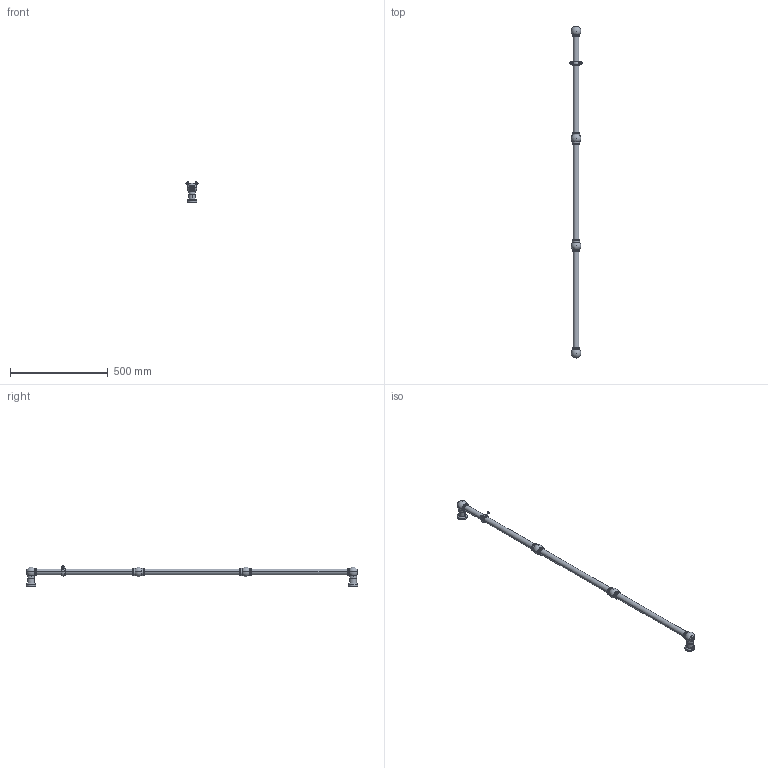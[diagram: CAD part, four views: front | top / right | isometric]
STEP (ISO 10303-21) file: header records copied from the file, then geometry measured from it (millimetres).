
FILE_DESCRIPTION (( 'STEP AP203' ), '1' );
FILE_NAME ('CAE031700.STEP', '2026-03-03T15:22:01', ( '' ), ( '' ), 'SwSTEP 2.0', 'SolidWorks 2025', '' );
FILE_SCHEMA (( 'CONFIG_CONTROL_DESIGN' ));
Length unit declared in the file: millimetre
Products named in the file (6): VITE; CAE031700; SFERA - Colonna; APPENDIABITI CAESAR; TUBO CAESAR COLONNA_550; SFERA-FIX - Colonna
Assembly tree (9 placements, depth 2):
  CAE031700
    SFERA-FIX - Colonna  x2
    TUBO CAESAR COLONNA_550  x3
    SFERA - Colonna  x2
    VITE
    APPENDIABITI CAESAR
Bounding box: 63.27 x 1701.01 x 104.64 mm (x, y, z)
Volume: 410875.3 mm3; surface area: 391236.7 mm2
Topology: 11 solids, 11 shells, 249 faces, 620 edges, 396 vertices
Faces by surface type: cylinder 102, torus 74, plane 43, sphere 14, cone 12, bspline 4
Entity records: 6398 total; most frequent: CARTESIAN_POINT 1813, DIRECTION 906, ORIENTED_EDGE 778, AXIS2_PLACEMENT_3D 413, EDGE_CURVE 389, VERTEX_POINT 246, CIRCLE 243, EDGE_LOOP 181
